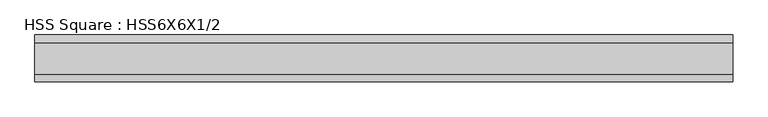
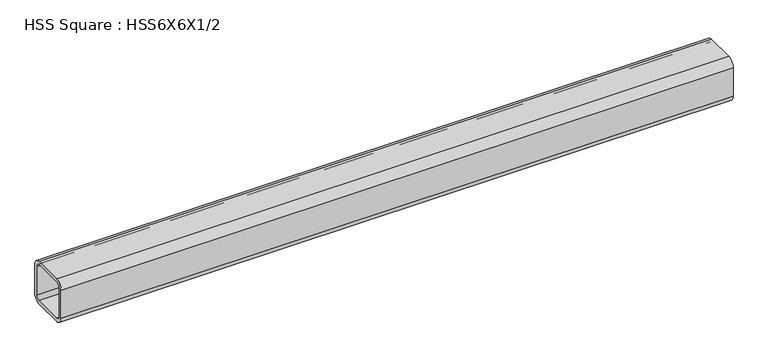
"""IFC4 building model written with IfcOpenShell, lengths in millimetres: beam geometry, HSS Square : HSS6X6X1/2."""

from ifc_helpers import new_model, si_unit, point, frame, frame_2d, origin, place, context, project, spatial, polyline, circle_curve, trimmed, segment, composite_curve, outline, extrude, source, transform, mapped, element, save


def hss_square_hss6x6x1_2_76161288(model_context):
    return source(origin(), model_context, "Body", "SweptSolid", [
        extrude(outline(composite_curve([segment(polyline([(76.2, 50.8), (76.2, -50.8)]), True, "CONTINUOUS"), segment(trimmed(circle_curve(frame_2d((50.8, -50.8)), 25.4), [point((76.2, -50.8))], [point((50.8, -76.2))], False, "CARTESIAN"), True, "CONTINUOUS"), segment(polyline([(50.8, -76.2), (-50.8, -76.2)]), True, "CONTINUOUS"), segment(trimmed(circle_curve(frame_2d((-50.8, -50.8)), 25.4), [point((-50.8, -76.2))], [point((-76.2, -50.8))], False, "CARTESIAN"), True, "CONTINUOUS"), segment(polyline([(-76.2, -50.8), (-76.2, 50.8)]), True, "CONTINUOUS"), segment(trimmed(circle_curve(frame_2d((-50.8, 50.8)), 25.4), [point((-76.2, 50.8))], [point((-50.8, 76.2))], False, "CARTESIAN"), True, "CONTINUOUS"), segment(polyline([(-50.8, 76.2), (50.8, 76.2)]), True, "CONTINUOUS"), segment(trimmed(circle_curve(frame_2d((50.8, 50.8)), 25.4), [point((50.8, 76.2))], [point((76.2, 50.8))], False, "CARTESIAN"), True, "CONTINUOUS")], self_intersect=False), holes=[composite_curve([segment(trimmed(circle_curve(frame_2d((-50.8, 50.8)), 12.7), [point((-50.8, 63.5))], [point((-63.5, 50.8))], True, "CARTESIAN"), True, "CONTINUOUS"), segment(polyline([(-63.5, 50.8), (-63.5, -50.8)]), True, "CONTINUOUS"), segment(trimmed(circle_curve(frame_2d((-50.8, -50.8)), 12.7), [point((-63.5, -50.8))], [point((-50.8, -63.5))], True, "CARTESIAN"), True, "CONTINUOUS"), segment(polyline([(-50.8, -63.5), (50.8, -63.5)]), True, "CONTINUOUS"), segment(trimmed(circle_curve(frame_2d((50.8, -50.8)), 12.7), [point((50.8, -63.5))], [point((63.5, -50.8))], True, "CARTESIAN"), True, "CONTINUOUS"), segment(polyline([(63.5, -50.8), (63.5, 50.8)]), True, "CONTINUOUS"), segment(trimmed(circle_curve(frame_2d((50.8, 50.8)), 12.7), [point((63.5, 50.8))], [point((50.8, 63.5))], True, "CARTESIAN"), True, "CONTINUOUS"), segment(polyline([(50.8, 63.5), (-50.8, 63.5)]), True, "CONTINUOUS")], self_intersect=False)]), frame((-1124.4437614, 0.0, 0.0), z_axis=(1.0, 0.0, 0.0), x_axis=(0.0, 1.0, 0.0)), (0.0, 0.0, 1.0), 2267.5700021),
    ])


if __name__ == "__main__":
    model = new_model("IFC4")
    model_context = context("Model", 3, world=origin())
    ifc_project = project(units=[si_unit("LENGTHUNIT", "METRE", prefix="MILLI")], contexts=[model_context])
    site = spatial("IfcSite", under=ifc_project)
    building = spatial("IfcBuilding", under=site)
    placement = place(None, origin())
    hss_square_hss6x6x1_2_shape = hss_square_hss6x6x1_2_76161288(model_context)
    element("IfcBeam", 1, ObjectType="HSS Square : HSS6X6X1/2", at=placement, inside=building, context=model_context, shape_type="MappedRepresentation", body=[
        mapped(hss_square_hss6x6x1_2_shape, transform((0.0, 0.0, 0.0), x_axis=(1.0, 0.0, 0.0), y_axis=(0.0, 1.0, 0.0), z_axis=(0.0, 0.0, 1.0))),
    ])
    save(model, "model.ifc")
